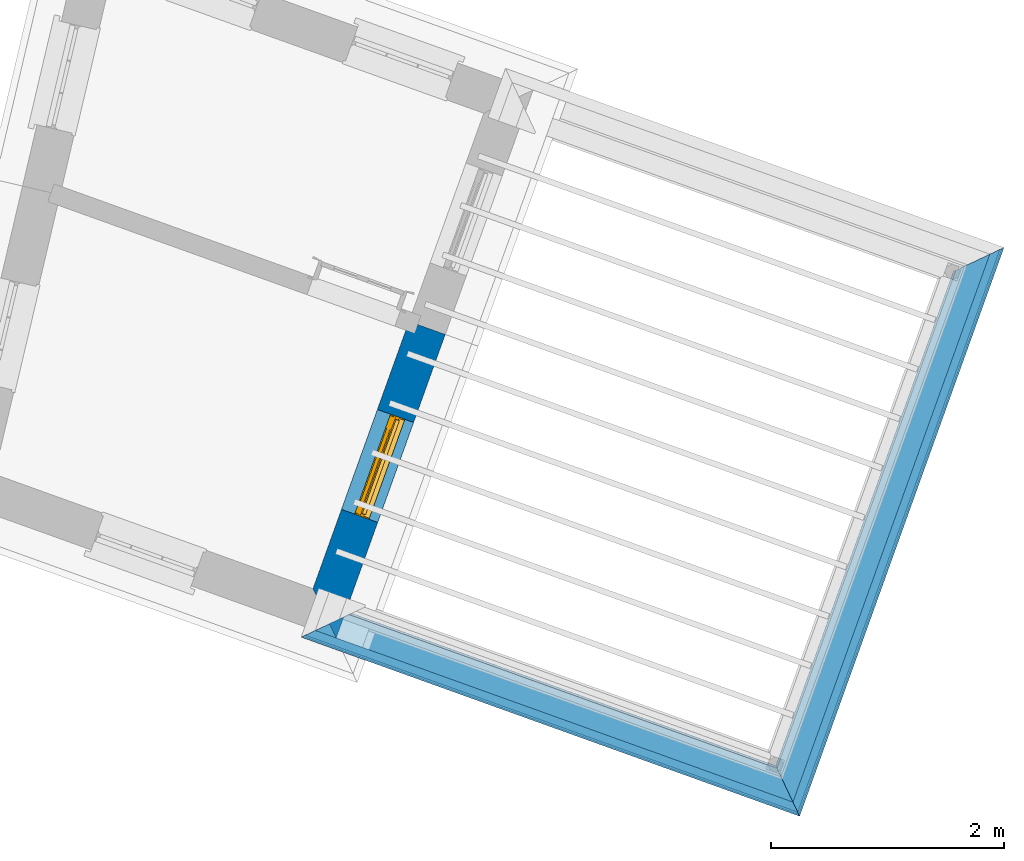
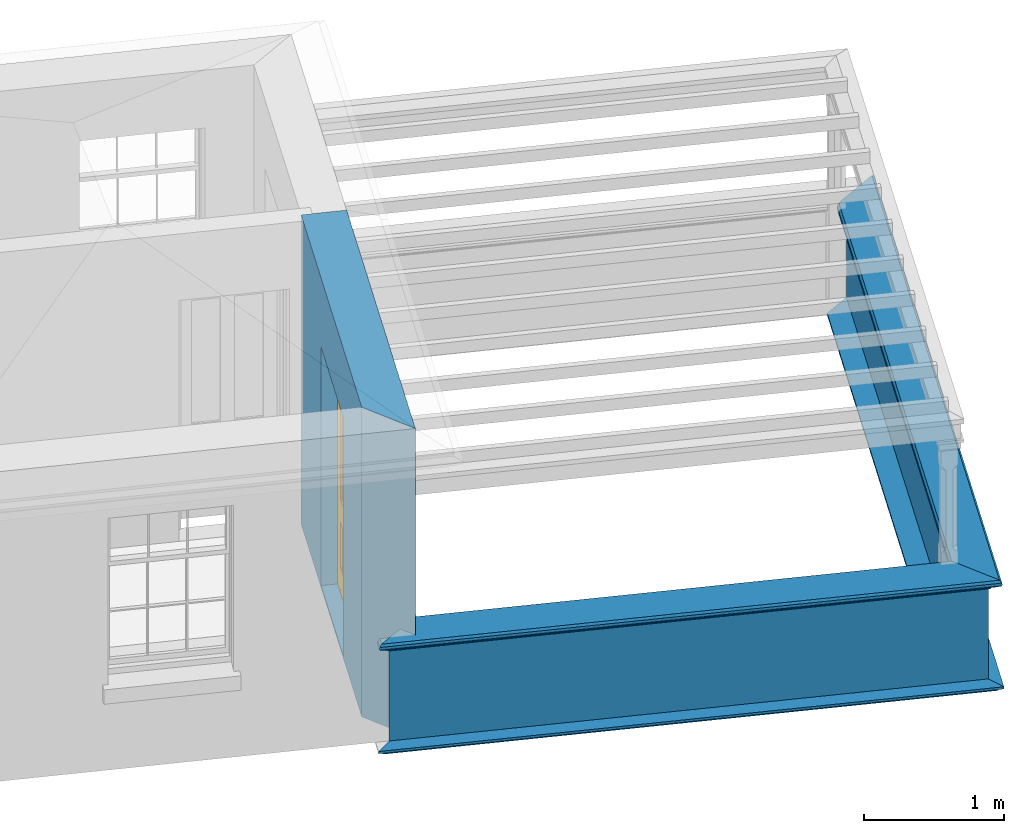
# One storey, part 2 of 5: 7 walls, 1 door, 1 opening.
"""IFC4 building model written with IfcOpenShell, lengths in metres."""

from ifc_helpers import new_model, si_unit, frame, origin, origin_with_axes, place, context, subcontext, project, spatial, polyline, outline, extrude, clip, halfspace, faceted_brep, source, transform, mapped, material, layer, layer_set, layer_usage, material_profile, profile_set, profile_usage, type_object, type_shapes, element, fill, save


model = new_model("IFC4")

# Units and contexts
model_context = context("Model", 3, world=origin_with_axes())
body_context = subcontext(model_context, "Body", "Model", "MODEL_VIEW")
ifc_project = project(units=[si_unit("PLANEANGLEUNIT", "RADIAN"), si_unit("MASSUNIT", "GRAM", prefix="KILO"), si_unit("FORCEUNIT", "NEWTON", prefix="KILO"), si_unit("LENGTHUNIT", "METRE"), si_unit("AREAUNIT", "SQUARE_METRE"), si_unit("VOLUMEUNIT", "CUBIC_METRE")], contexts=[model_context, model_context])

# Sites, building, storey
site_1_placement = place(None, origin_with_axes())
site_1 = spatial("IfcSite", under=ifc_project, at=site_1_placement, Name="Tamar")
site_2_placement = place(site_1_placement, origin_with_axes())
site_2 = spatial("IfcSite", under=site_1, at=site_2_placement, Name="Site plot-22", CompositionType="ELEMENT")
building_placement = place(None, origin_with_axes())
building = spatial("IfcBuilding", under=site_2, at=building_placement, Name="Building plot-22", CompositionType="ELEMENT")
storey_placement = place(None, frame((0.0, 0.0, 30.5), z_axis=(0.0, 0.0, 1.0), x_axis=(1.0, 0.0, 0.0)))
storey = spatial("IfcBuildingStorey", under=building, at=storey_placement, Name="plot-22 2", CompositionType="ELEMENT", Elevation=30.5)

# Wall, opening, door
ifc_material = material(Name="Masonry")
ifc_layer = layer(ifc_material, 0.33, ventilated=False)
ifc_layer_set = layer_set([ifc_layer], Name="exterior_0.08_0.25")
ifc_layer_usage = layer_usage(ifc_layer_set, "AXIS2", "POSITIVE", -0.25)
wall_type_1 = type_object("IfcWallType", Name="exterior_0.08_0.25", PredefinedType="SOLIDWALL", material=ifc_layer_set)
wall_1_placement = place(storey_placement, frame((252.911384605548, 270.798765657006, 0.0), z_axis=(0.0, 0.0, 1.0), x_axis=(0.338164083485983, 0.941087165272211, 0.0)))
wall_1 = element("IfcWall", 1, at=wall_1_placement, inside=storey, type_object=wall_type_1, material=ifc_layer_usage, Name="exterior", context=body_context, shape_type="SweptSolid", body=[
    extrude(outline(polyline([(0.0799999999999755, 0.0799999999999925), (-0.250000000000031, -0.250000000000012), (2.51427879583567, -0.249999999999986), (2.51427879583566, 0.0800000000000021), (0.0799999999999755, 0.0799999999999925)])), origin_with_axes(), (0.0, 0.0, 1.0), 2.7),
])
opening_placement = place(wall_1_placement, frame((0.802139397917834, 0.0, 0.0199999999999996)))
opening = element("IfcOpeningElement", 2, at=opening_placement, cuts=wall_1, Name="My Opening", ObjectType="Opening", context=body_context, shape_type="SweptSolid", body=[
    extrude(outline(polyline([(0.0, -0.270000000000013), (0.90999999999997, -0.270000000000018), (0.909999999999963, 1.1), (-6.99440505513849e-15, 1.1), (0.0, -0.270000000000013)])), origin_with_axes(), (0.0, 0.0, 1.0), 2.08),
])
door_type = type_object("IfcDoorType", Name="door_panelled", OperationType="SINGLE_SWING_LEFT", PredefinedType="NOTDEFINED")
shared_shape = source(origin(), body_context, "Body", "Brep", [
    faceted_brep([(0.545, 0.195, 0.265), (0.745, 0.195, 0.265), (0.745, 0.2, 0.265), (0.545, 0.2, 0.265), (0.745, 0.2, 0.58), (0.545, 0.2, 0.58), (0.545, 0.195, 0.58), (0.515, 0.19, 0.235), (0.775, 0.19, 0.235), (0.745, 0.195, 0.58), (0.515, 0.19, 0.61), (0.515, 0.185, 0.235), (0.775, 0.185, 0.235), (0.775, 0.19, 0.61), (0.515, 0.185, 0.61), (0.785, 0.185, 0.225), (0.505, 0.185, 0.225), (0.775, 0.185, 0.61), (0.505, 0.185, 0.62), (0.785, 0.185, 0.62), (0.505, 0.18, 0.225), (0.785, 0.18, 0.225), (0.505, 0.18, 0.62), (0.785, 0.18, 0.62), (0.883, 0.18, 0.075), (0.898, 0.18, 0.075), (0.405, 0.18, 0.62), (0.405, 0.18, 0.225), (0.027, 0.18, 0.075), (0.785, 0.18, 0.82), (0.125, 0.18, 0.82), (0.405, 0.185, 0.62), (0.405, 0.185, 0.225), (0.898, 0.18, 2.068), (0.027, 0.17, 0.075), (0.883, 0.17, 0.075), (0.125, 0.18, 0.225), (0.012, 0.18, 0.075), (0.785, 0.19, 0.82), (0.125, 0.19, 0.82), (0.125, 0.18, 0.62), (0.125, 0.185, 0.62), (0.395, 0.185, 0.61), (0.395, 0.185, 0.235), (0.125, 0.185, 0.225), (0.785, 0.18, 1.895), (0.027, 0.14, 0.045), (0.883, 0.14, 0.045), (0.558333, 0.19, 0.83), (0.351667, 0.19, 0.83), (0.125, 0.18, 1.895), (0.125, 0.19, 1.895), (0.785, 0.19, 1.895), (0.012, 0.18, 2.068), (0.135, 0.185, 0.61), (0.395, 0.19, 0.61), (0.395, 0.19, 0.235), (0.135, 0.185, 0.235), (0.027, 0.14, 0.027), (0.883, 0.14, 0.027), (0.568333, 0.19, 0.83), (0.558333, 0.22, 0.83), (0.351667, 0.22, 0.83), (0.341667, 0.19, 0.83), (0.135, 0.19, 1.185), (0.135, 0.19, 1.53), (0.775, 0.19, 1.53), (0.775, 0.19, 1.185), (0.135, 0.19, 0.61), (0.365, 0.195, 0.58), (0.365, 0.195, 0.265), (0.135, 0.19, 0.235), (0.568333, 0.19, 1.175), (0.558333, 0.19, 1.175), (0.775, 0.19, 0.83), (0.558333, 0.22, 1.175), (0.785, 0.22, 0.82), (0.125, 0.22, 0.82), (0.351667, 0.22, 1.175), (0.351667, 0.19, 1.175), (0.341667, 0.19, 1.175), (0.135, 0.19, 0.83), (0.135, 0.19, 1.175), (0.135, 0.22, 1.185), (0.135, 0.22, 1.53), (0.135, 0.19, 1.54), (0.351667, 0.19, 1.885), (0.558333, 0.19, 1.885), (0.775, 0.22, 1.53), (0.775, 0.22, 1.185), (0.775, 0.19, 1.175), (0.775, 0.19, 1.54), (0.165, 0.195, 0.58), (0.365, 0.2, 0.58), (0.365, 0.2, 0.265), (0.165, 0.195, 0.265), (0.568333, 0.22, 0.83), (0.568333, 0.22, 1.175), (0.568333, 0.19, 1.185), (0.558333, 0.19, 1.185), (0.775, 0.22, 0.83), (0.785, 0.23, 0.82), (0.125, 0.23, 0.82), (0.341667, 0.22, 0.83), (0.341667, 0.22, 1.175), (0.351667, 0.19, 1.185), (0.341667, 0.19, 1.185), (0.135, 0.22, 0.83), (0.341667, 0.22, 1.185), (0.125, 0.22, 1.895), (0.341667, 0.22, 1.53), (0.341667, 0.19, 1.53), (0.135, 0.19, 1.885), (0.341667, 0.19, 1.54), (0.341667, 0.19, 1.885), (0.558333, 0.22, 1.885), (0.351667, 0.22, 1.885), (0.568333, 0.19, 1.885), (0.785, 0.22, 1.895), (0.568333, 0.22, 1.185), (0.568333, 0.19, 1.53), (0.568333, 0.22, 1.53), (0.568333, 0.19, 1.54), (0.775, 0.19, 1.885), (0.165, 0.2, 0.58), (0.165, 0.2, 0.265), (0.775, 0.22, 1.175), (0.558333, 0.19, 1.53), (0.351667, 0.22, 1.185), (0.558333, 0.22, 1.185), (0.505, 0.23, 0.62), (0.405, 0.23, 0.62), (0.125, 0.23, 1.895), (0.785, 0.23, 1.895), (0.351667, 0.19, 1.53), (0.135, 0.22, 1.175), (0.135, 0.22, 1.54), (0.341667, 0.22, 1.54), (0.135, 0.22, 1.885), (0.351667, 0.19, 1.54), (0.558333, 0.22, 1.54), (0.558333, 0.19, 1.54), (0.351667, 0.22, 1.54), (0.775, 0.22, 1.54), (0.568333, 0.22, 1.54), (0.775, 0.22, 1.885), (0.558333, 0.22, 1.53), (0.405, 0.23, 0.225), (0.505, 0.23, 0.225), (0.125, 0.23, 0.62), (0.785, 0.23, 0.62), (0.012, 0.23, 2.068), (0.898, 0.23, 2.068), (0.351667, 0.22, 1.53), (0.341667, 0.22, 1.885), (0.568333, 0.22, 1.885), (0.405, 0.225, 0.225), (0.405, 0.225, 0.62), (0.505, 0.225, 0.62), (0.505, 0.225, 0.225), (0.898, 0.23, 0.027), (0.012, 0.23, 0.027), (0.125, 0.225, 0.62), (0.785, 0.225, 0.62), (0.395, 0.225, 0.235), (0.395, 0.225, 0.61), (0.125, 0.23, 0.225), (0.125, 0.225, 0.225), (0.515, 0.225, 0.61), (0.515, 0.225, 0.235), (0.785, 0.23, 0.225), (0.785, 0.225, 0.225), (0.135, 0.225, 0.61), (0.775, 0.225, 0.61), (0.135, 0.225, 0.235), (0.395, 0.22, 0.235), (0.395, 0.22, 0.61), (0.515, 0.22, 0.61), (0.515, 0.22, 0.235), (0.775, 0.225, 0.235), (0.135, 0.22, 0.61), (0.775, 0.22, 0.61), (0.135, 0.22, 0.235), (0.365, 0.215, 0.265), (0.365, 0.215, 0.58), (0.545, 0.215, 0.58), (0.545, 0.215, 0.265), (0.775, 0.22, 0.235), (0.165, 0.215, 0.58), (0.745, 0.215, 0.58), (0.165, 0.215, 0.265), (0.365, 0.21, 0.58), (0.365, 0.21, 0.265), (0.545, 0.21, 0.58), (0.545, 0.21, 0.265), (0.745, 0.215, 0.265), (0.165, 0.21, 0.58), (0.745, 0.21, 0.58), (0.165, 0.21, 0.265), (0.745, 0.21, 0.265), (0.885, 0.178, 0.025), (0.025, 0.178, 0.025), (0.025, 0.15, 0.025), (0.885, 0.15, 0.025), (0.9, 0.23, 0.025), (0.01, 0.23, 0.025), (0.9, 0.178, 0.025), (0.91, 0.23, 0.0), (0.0, 0.23, 0.0), (0.01, 0.178, 0.025), (0.9, 0.178, 2.07), (0.9, 0.23, 2.07), (0.885, 0.178, 2.055), (0.91, 0.23, 2.08), (0.01, 0.23, 2.07), (0.0, 0.23, 2.08), (0.01, 0.178, 2.07), (0.025, 0.178, 2.055), (0.0, 0.1, 2.08), (0.91, 0.1, 2.08), (0.01, 0.1, 2.07), (0.9, 0.1, 2.07), (0.01, 0.15, 2.07), (0.9, 0.15, 2.07), (0.0, 0.1, 0.0), (0.91, 0.1, 0.0), (0.01, 0.1, 0.025), (0.9, 0.1, 0.025), (0.01, 0.15, 0.025), (0.025, 0.15, 2.055), (0.9, 0.15, 0.025), (0.885, 0.15, 2.055), (0.898, 0.18, 0.027), (0.012, 0.18, 0.027), (0.883, 0.18, 0.027), (0.027, 0.18, 0.027)], [[[0, 1, 2, 3]], [[2, 4, 5, 3]], [[0, 3, 5, 6]], [[1, 0, 7, 8]], [[9, 4, 2, 1]], [[9, 6, 5, 4]], [[0, 6, 10, 7]], [[8, 7, 11, 12]], [[8, 13, 9, 1]], [[13, 10, 6, 9]], [[7, 10, 14, 11]], [[15, 12, 11, 16]], [[12, 17, 13, 8]], [[17, 14, 10, 13]], [[18, 16, 11, 14]], [[15, 19, 17, 12]], [[15, 16, 20, 21]], [[14, 17, 19, 18]], [[16, 18, 22, 20]], [[21, 23, 19, 15]], [[24, 25, 21, 20]], [[23, 22, 18, 19]], [[20, 22, 26, 27]], [[23, 21, 25]], [[28, 24, 20, 27]], [[22, 23, 29]], [[29, 30, 26, 22]], [[27, 26, 31, 32]], [[23, 25, 33, 29]], [[34, 35, 24, 28]], [[28, 27, 36, 37]], [[38, 39, 30, 29]], [[26, 30, 40]], [[26, 40, 41, 31]], [[42, 43, 32, 31]], [[32, 44, 36, 27]], [[33, 45, 29]], [[46, 47, 35, 34]], [[36, 40, 37]], [[39, 38, 48, 49]], [[50, 30, 39, 51]], [[29, 45, 52, 38]], [[53, 37, 40, 30]], [[44, 41, 40, 36]], [[31, 41, 54, 42]], [[43, 42, 55, 56]], [[57, 44, 32, 43]], [[50, 45, 33, 53]], [[47, 46, 58, 59]], [[60, 48, 38]], [[49, 48, 61, 62]], [[49, 63, 39]], [[50, 53, 30]], [[51, 39, 64, 65]], [[45, 50, 51, 52]], [[66, 67, 38, 52]], [[57, 54, 41, 44]], [[42, 54, 68, 55]], [[56, 55, 69, 70]], [[56, 71, 57, 43]], [[60, 72, 73, 48]], [[60, 38, 74]], [[48, 73, 75, 61]], [[76, 77, 62, 61]], [[62, 78, 79, 49]], [[49, 79, 80, 63]], [[63, 81, 39]], [[82, 64, 39]], [[65, 64, 83, 84]], [[85, 51, 65]], [[52, 51, 86, 87]], [[88, 89, 67, 66]], [[90, 38, 67]], [[91, 66, 52]], [[71, 68, 54, 57]], [[55, 68, 92, 69]], [[69, 93, 94, 70]], [[70, 95, 71, 56]], [[96, 97, 72, 60]], [[73, 72, 98, 99]], [[74, 38, 90]], [[100, 96, 60, 74]], [[75, 73, 79, 78]], [[61, 75, 97, 96]], [[101, 102, 77, 76]], [[77, 103, 62]], [[96, 76, 61]], [[103, 104, 78, 62]], [[80, 79, 105, 106]], [[63, 80, 104, 103]], [[81, 63, 103, 107]], [[81, 82, 39]], [[106, 64, 82, 80]], [[106, 108, 83, 64]], [[84, 83, 77, 109]], [[110, 111, 65, 84]], [[112, 51, 85]], [[113, 85, 65, 111]], [[114, 86, 51]], [[115, 87, 86, 116]], [[117, 52, 87]], [[118, 76, 89, 88]], [[119, 98, 67, 89]], [[120, 121, 88, 66]], [[67, 98, 72, 90]], [[91, 122, 120, 66]], [[91, 52, 123]], [[95, 92, 68, 71]], [[69, 92, 124, 93]], [[94, 93, 124, 125]], [[94, 125, 95, 70]], [[72, 97, 126, 90]], [[127, 99, 98, 120]], [[99, 105, 79, 73]], [[74, 90, 126, 100]], [[96, 100, 76]], [[128, 129, 75, 78]], [[97, 75, 129, 119]], [[130, 131, 102, 101]], [[109, 77, 102, 132]], [[133, 101, 76, 118]], [[77, 107, 103]], [[78, 104, 108, 128]], [[111, 106, 105, 134]], [[104, 80, 82, 135]], [[107, 135, 82, 81]], [[110, 108, 106, 111]], [[104, 135, 83, 108]], [[83, 135, 77]], [[136, 84, 109]], [[110, 84, 136, 137]], [[114, 51, 112]], [[85, 136, 138, 112]], [[113, 137, 136, 85]], [[111, 134, 139, 113]], [[86, 114, 113, 139]], [[140, 141, 87, 115]], [[139, 142, 116, 86]], [[109, 118, 115, 116]], [[117, 123, 52]], [[117, 87, 141, 122]], [[126, 89, 76]], [[143, 118, 88]], [[120, 98, 119, 121]], [[119, 89, 126, 97]], [[144, 143, 88, 121]], [[144, 122, 91, 143]], [[127, 120, 122, 141]], [[143, 91, 123, 145]], [[124, 92, 95, 125]], [[146, 129, 99, 127]], [[99, 129, 128, 105]], [[100, 126, 76]], [[121, 119, 129, 146]], [[147, 131, 130, 148]], [[131, 149, 102]], [[130, 101, 150]], [[102, 151, 132]], [[118, 109, 132, 133]], [[101, 133, 152]], [[107, 77, 135]], [[153, 128, 108, 110]], [[134, 105, 128, 153]], [[109, 138, 136]], [[153, 110, 137, 142]], [[154, 114, 112, 138]], [[137, 113, 114, 154]], [[141, 139, 134, 127]], [[141, 140, 142, 139]], [[144, 140, 115, 155]], [[142, 137, 154, 116]], [[155, 115, 118]], [[116, 154, 109]], [[117, 155, 145, 123]], [[122, 144, 155, 117]], [[143, 145, 118]], [[121, 146, 140, 144]], [[146, 127, 134, 153]], [[156, 157, 131, 147]], [[148, 130, 158, 159]], [[148, 160, 161, 147]], [[157, 162, 149, 131]], [[161, 151, 102, 149]], [[101, 152, 160, 150]], [[163, 158, 130, 150]], [[151, 152, 133, 132]], [[154, 138, 109]], [[142, 140, 146, 153]], [[145, 155, 118]], [[157, 156, 164, 165]], [[147, 166, 167, 156]], [[168, 169, 159, 158]], [[170, 148, 159, 171]], [[148, 170, 160]], [[166, 147, 161]], [[172, 162, 157, 165]], [[166, 149, 162, 167]], [[166, 161, 149]], [[150, 160, 170]], [[163, 173, 168, 158]], [[171, 163, 150, 170]], [[174, 164, 156, 167]], [[175, 176, 165, 164]], [[169, 168, 177, 178]], [[171, 159, 169, 179]], [[167, 162, 172, 174]], [[176, 180, 172, 165]], [[179, 173, 163, 171]], [[181, 177, 168, 173]], [[164, 174, 182, 175]], [[183, 184, 176, 175]], [[178, 177, 185, 186]], [[179, 169, 178, 187]], [[174, 172, 180, 182]], [[184, 188, 180, 176]], [[187, 181, 173, 179]], [[189, 185, 177, 181]], [[175, 182, 190, 183]], [[191, 184, 183, 192]], [[185, 193, 194, 186]], [[187, 178, 186, 195]], [[182, 180, 188, 190]], [[191, 196, 188, 184]], [[195, 189, 181, 187]], [[197, 193, 185, 189]], [[183, 190, 198, 192]], [[198, 196, 191, 192]], [[194, 193, 197, 199]], [[195, 186, 194, 199]], [[188, 196, 198, 190]], [[197, 189, 195, 199]], [[200, 201, 202, 203]], [[201, 200, 204, 205]], [[206, 204, 200]], [[204, 207, 208, 205]], [[209, 201, 205]], [[210, 211, 204, 206]], [[206, 200, 212, 210]], [[211, 213, 207, 204]], [[214, 205, 208, 215]], [[216, 217, 201, 209]], [[205, 214, 216, 209]], [[216, 214, 211, 210]], [[210, 212, 217, 216]], [[214, 215, 213, 211]], [[218, 219, 213, 215]], [[219, 218, 220, 221]], [[221, 220, 222, 223]], [[215, 208, 224, 218]], [[225, 224, 208, 207]], [[224, 226, 220, 218]], [[224, 225, 227, 226]], [[219, 225, 207, 213]], [[228, 222, 220, 226]], [[219, 221, 227, 225]], [[226, 227, 203, 202]], [[202, 229, 222, 228]], [[228, 226, 202]], [[227, 221, 223, 230]], [[230, 203, 227]], [[217, 229, 202, 201]], [[231, 223, 222, 229]], [[230, 223, 231, 203]], [[231, 229, 217, 212]], [[212, 200, 203, 231]], [[33, 152, 151, 53]], [[25, 160, 152, 33]], [[161, 37, 53, 151]], [[232, 160, 25]], [[161, 233, 37]], [[160, 232, 234]], [[24, 234, 232, 25]], [[233, 161, 235]], [[37, 233, 235, 28]], [[161, 160, 234, 235]], [[35, 47, 234, 24]], [[28, 235, 46, 34]], [[58, 235, 234, 59]], [[59, 234, 47]], [[58, 46, 235]]]),
])
type_shapes(door_type, [shared_shape])
door_placement = place(storey_placement, frame((253.436732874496, 271.462344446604, 0.0199999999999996), z_axis=(0.0, 0.0, 1.0), x_axis=(0.307729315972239, 0.856389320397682, 0.0)))
door = element("IfcDoor", 3, at=door_placement, inside=storey, type_object=door_type, Name="bedroom outside door", OverallHeight=2.08, OverallWidth=0.91, context=body_context, shape_type="MappedRepresentation", body=[
    mapped(shared_shape, transform((0.0, 0.0, 0.0), scale=1.0)),
])
fill(opening, door)

# Walls
ifc_material_profile_1 = material_profile(None, outline(polyline([(0.25, 0.0), (0.25, 0.795), (0.09, 0.795), (0.09, 0.02), (-0.08, 0.02), (-0.08, 0.0), (0.25, 0.0)])))
ifc_profile_set_1 = profile_set([ifc_material_profile_1])
ifc_profile_usage_1 = profile_usage(ifc_profile_set_1)
wall_type_2 = type_object("IfcWallType", Name="parapet_0", PredefinedType="PARAPET", material=ifc_profile_set_1)
wall_2_placement = place(storey_placement, frame((257.767055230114, 269.05396085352, 0.0), z_axis=(-0.94108716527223, 0.33816408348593, 0.0), x_axis=(-0.33816408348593, -0.94108716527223, 0.0)))
element("IfcWall", 4, at=wall_2_placement, inside=storey, type_object=wall_type_2, material=ifc_profile_usage_1, Name="parapet_0", context=body_context, shape_type="Clipping", body=[
    clip(clip(extrude(outline(polyline([(0.25, 0.0), (0.25, 0.795), (0.09, 0.795), (0.09, 0.02), (-0.08, 0.02), (-0.08, 0.0), (0.25, 0.0)])), origin_with_axes(), (0.0, 0.0, 1.0), 5.84963962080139), halfspace(frame((0.0, 0.0, 4.84963962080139), z_axis=(0.70710678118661, 0.0, -0.707106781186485), x_axis=(0.0, 1.0, 0.0)), True)), halfspace(frame((0.0, 0.0, 1.0), z_axis=(-0.707106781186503, 0.0, -0.707106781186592), x_axis=(0.0, 1.0, 0.0)), False)),
])
ifc_profile_usage_2 = profile_usage(ifc_profile_set_1)
wall_3_placement = place(storey_placement, frame((258.682373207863, 274.558371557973, 0.0), z_axis=(-0.338164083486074, -0.941087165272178, 0.0), x_axis=(0.941087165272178, -0.338164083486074, 0.0)))
element("IfcWall", 5, at=wall_3_placement, inside=storey, type_object=wall_type_2, material=ifc_profile_usage_2, Name="parapet_0", context=body_context, shape_type="Clipping", body=[
    clip(clip(extrude(outline(polyline([(0.25, 0.0), (0.25, 0.795), (0.09, 0.795), (0.09, 0.02), (-0.08, 0.02), (-0.08, 0.0), (0.25, 0.0)])), origin_with_axes(), (0.0, 0.0, 1.0), 6.48965793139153), halfspace(frame((0.0, 0.0, 5.48965793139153), z_axis=(0.707106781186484, 0.0, -0.707106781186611), x_axis=(0.0, 1.0, 0.0)), True)), halfspace(frame((0.0, 0.0, 1.0), z_axis=(-0.707106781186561, 0.0, -0.707106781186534), x_axis=(0.0, 1.0, 0.0)), False)),
])
ifc_material_profile_2 = material_profile(None, outline(polyline([(0.265, 0.795), (0.268, 0.807), (0.274, 0.816), (0.283, 0.822), (0.295, 0.825), (0.295, 0.84), (0.305, 0.84), (0.317, 0.842), (0.326, 0.849), (0.333, 0.858), (0.335, 0.87), (0.333, 0.882), (0.326, 0.891), (0.317, 0.898), (0.305, 0.9), (0.035, 0.9), (0.023, 0.898), (0.014, 0.891), (0.007, 0.882), (0.005, 0.87), (0.007, 0.858), (0.014, 0.849), (0.023, 0.842), (0.035, 0.84), (0.045, 0.84), (0.045, 0.825), (0.057, 0.822), (0.066, 0.816), (0.072, 0.807), (0.075, 0.795), (0.265, 0.795)])))
ifc_profile_set_2 = profile_set([ifc_material_profile_2])
ifc_profile_usage_3 = profile_usage(ifc_profile_set_2)
wall_type_3 = type_object("IfcWallType", Name="parapet_1", PredefinedType="PARAPET", material=ifc_profile_set_2)
wall_4_placement = place(storey_placement, frame((257.767055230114, 269.05396085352, 0.0), z_axis=(-0.94108716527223, 0.33816408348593, 0.0), x_axis=(-0.33816408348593, -0.94108716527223, 0.0)))
element("IfcWall", 6, at=wall_4_placement, inside=storey, type_object=wall_type_3, material=ifc_profile_usage_3, Name="parapet_1", context=body_context, shape_type="Clipping", body=[
    clip(clip(extrude(outline(polyline([(0.265, 0.795), (0.268, 0.807), (0.274, 0.816), (0.283, 0.822), (0.295, 0.825), (0.295, 0.84), (0.305, 0.84), (0.317, 0.842), (0.326, 0.849), (0.333, 0.858), (0.335, 0.87), (0.333, 0.882), (0.326, 0.891), (0.317, 0.898), (0.305, 0.9), (0.035, 0.9), (0.023, 0.898), (0.014, 0.891), (0.007, 0.882), (0.005, 0.87), (0.007, 0.858), (0.014, 0.849), (0.023, 0.842), (0.035, 0.84), (0.045, 0.84), (0.045, 0.825), (0.057, 0.822), (0.066, 0.816), (0.072, 0.807), (0.075, 0.795), (0.265, 0.795)])), origin_with_axes(), (0.0, 0.0, 1.0), 5.84963962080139), halfspace(frame((0.0, 0.0, 4.84963962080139), z_axis=(0.70710678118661, 0.0, -0.707106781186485), x_axis=(0.0, 1.0, 0.0)), True)), halfspace(frame((0.0, 0.0, 1.0), z_axis=(-0.707106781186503, 0.0, -0.707106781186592), x_axis=(0.0, 1.0, 0.0)), False)),
])
ifc_profile_usage_4 = profile_usage(ifc_profile_set_2)
wall_5_placement = place(storey_placement, frame((258.682373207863, 274.558371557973, 0.0), z_axis=(-0.338164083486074, -0.941087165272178, 0.0), x_axis=(0.941087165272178, -0.338164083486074, 0.0)))
element("IfcWall", 7, at=wall_5_placement, inside=storey, type_object=wall_type_3, material=ifc_profile_usage_4, Name="parapet_1", context=body_context, shape_type="Clipping", body=[
    clip(clip(extrude(outline(polyline([(0.265, 0.795), (0.268, 0.807), (0.274, 0.816), (0.283, 0.822), (0.295, 0.825), (0.295, 0.84), (0.305, 0.84), (0.317, 0.842), (0.326, 0.849), (0.333, 0.858), (0.335, 0.87), (0.333, 0.882), (0.326, 0.891), (0.317, 0.898), (0.305, 0.9), (0.035, 0.9), (0.023, 0.898), (0.014, 0.891), (0.007, 0.882), (0.005, 0.87), (0.007, 0.858), (0.014, 0.849), (0.023, 0.842), (0.035, 0.84), (0.045, 0.84), (0.045, 0.825), (0.057, 0.822), (0.066, 0.816), (0.072, 0.807), (0.075, 0.795), (0.265, 0.795)])), origin_with_axes(), (0.0, 0.0, 1.0), 6.48965793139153), halfspace(frame((0.0, 0.0, 5.48965793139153), z_axis=(0.707106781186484, 0.0, -0.707106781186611), x_axis=(0.0, 1.0, 0.0)), True)), halfspace(frame((0.0, 0.0, 1.0), z_axis=(-0.707106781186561, 0.0, -0.707106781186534), x_axis=(0.0, 1.0, 0.0)), False)),
])
ifc_material_profile_3 = material_profile(None, outline(polyline([(0.25, -0.1), (0.265, -0.1), (0.265, -0.085), (0.278, -0.084), (0.289, -0.081), (0.301, -0.074), (0.309, -0.065), (0.315, -0.055), (0.324, -0.044), (0.334, -0.038), (0.345, -0.035), (0.345, -0.015), (0.25, 0.0), (0.25, -0.1)])))
ifc_profile_set_3 = profile_set([ifc_material_profile_3])
ifc_profile_usage_5 = profile_usage(ifc_profile_set_3)
wall_type_4 = type_object("IfcWallType", Name="parapet_2", PredefinedType="PARAPET", material=ifc_profile_set_3)
wall_6_placement = place(storey_placement, frame((257.767055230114, 269.05396085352, 0.0), z_axis=(-0.94108716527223, 0.33816408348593, 0.0), x_axis=(-0.33816408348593, -0.94108716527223, 0.0)))
element("IfcWall", 8, at=wall_6_placement, inside=storey, type_object=wall_type_4, material=ifc_profile_usage_5, Name="parapet_2", context=body_context, shape_type="Clipping", body=[
    clip(clip(extrude(outline(polyline([(0.25, -0.1), (0.265, -0.1), (0.265, -0.085), (0.278, -0.084), (0.289, -0.081), (0.301, -0.074), (0.309, -0.065), (0.315, -0.055), (0.324, -0.044), (0.334, -0.038), (0.345, -0.035), (0.345, -0.015), (0.25, 0.0), (0.25, -0.1)])), origin_with_axes(), (0.0, 0.0, 1.0), 5.84963962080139), halfspace(frame((0.0, 0.0, 4.84963962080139), z_axis=(0.70710678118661, 0.0, -0.707106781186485), x_axis=(0.0, 1.0, 0.0)), True)), halfspace(frame((0.0, 0.0, 1.0), z_axis=(-0.707106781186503, 0.0, -0.707106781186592), x_axis=(0.0, 1.0, 0.0)), False)),
])
ifc_profile_usage_6 = profile_usage(ifc_profile_set_3)
wall_7_placement = place(storey_placement, frame((258.682373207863, 274.558371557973, 0.0), z_axis=(-0.338164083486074, -0.941087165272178, 0.0), x_axis=(0.941087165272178, -0.338164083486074, 0.0)))
element("IfcWall", 9, at=wall_7_placement, inside=storey, type_object=wall_type_4, material=ifc_profile_usage_6, Name="parapet_2", context=body_context, shape_type="Clipping", body=[
    clip(clip(extrude(outline(polyline([(0.25, -0.1), (0.265, -0.1), (0.265, -0.085), (0.278, -0.084), (0.289, -0.081), (0.301, -0.074), (0.309, -0.065), (0.315, -0.055), (0.324, -0.044), (0.334, -0.038), (0.345, -0.035), (0.345, -0.015), (0.25, 0.0), (0.25, -0.1)])), origin_with_axes(), (0.0, 0.0, 1.0), 6.48965793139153), halfspace(frame((0.0, 0.0, 5.48965793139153), z_axis=(0.707106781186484, 0.0, -0.707106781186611), x_axis=(0.0, 1.0, 0.0)), True)), halfspace(frame((0.0, 0.0, 1.0), z_axis=(-0.707106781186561, 0.0, -0.707106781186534), x_axis=(0.0, 1.0, 0.0)), False)),
])

save(model, "model.ifc")
